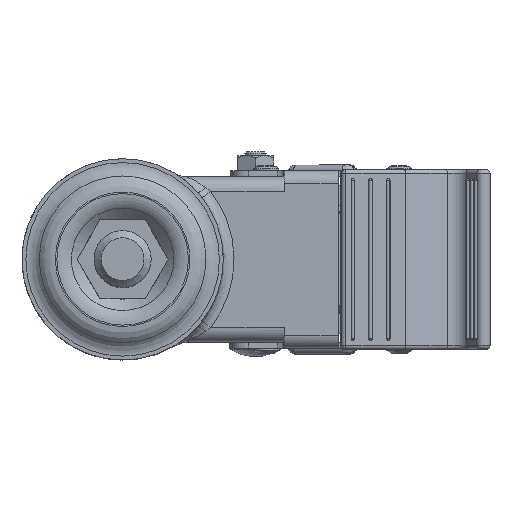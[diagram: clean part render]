
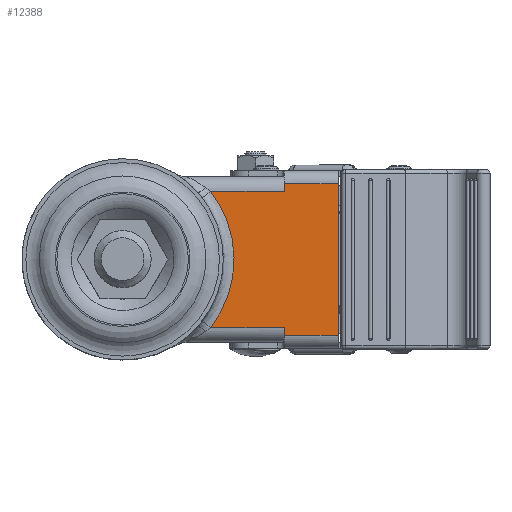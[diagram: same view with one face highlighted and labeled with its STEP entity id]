
A CAD part, top view. The second image highlights one B-rep face of the part: STEP entity #12388.
In plain terms, the highlighted planar face has unit normal (0, 0, 1).
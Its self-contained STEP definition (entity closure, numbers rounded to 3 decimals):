
#826=B_SPLINE_CURVE_WITH_KNOTS('',3,(#23418,#23419,#23420,#23421,#23422,
#23423,#23424,#23425,#23426,#23427,#23428,#23429,#23430,#23431,#23432,#23433,
#23434,#23435,#23436,#23437,#23438,#23439,#23440,#23441,#23442,#23443,#23444,
#23445,#23446,#23447),.UNSPECIFIED.,.F.,.F.,(4,2,2,2,2,2,2,2,2,2,2,2,2,
2,4),(69.111,72.184,75.328,78.47,
81.613,84.756,87.898,91.041,94.184,
97.327,100.469,103.612,106.754,109.897,
109.985),.UNSPECIFIED.);
#1653=FACE_OUTER_BOUND('',#2608,.T.);
#2608=EDGE_LOOP('',(#11381,#11382,#11383,#11384,#11385,#11386,#11387,#11388));
#3212=LINE('',#21735,#3992);
#3243=LINE('',#23453,#4023);
#3263=LINE('',#23600,#4043);
#3264=LINE('',#23603,#4044);
#3296=LINE('',#24583,#4076);
#3355=LINE('',#24865,#4135);
#3372=LINE('',#24950,#4152);
#3992=VECTOR('',#16862,20.509);
#4023=VECTOR('',#17065,20.509);
#4043=VECTOR('',#17183,2.1);
#4044=VECTOR('',#17186,2.1);
#4076=VECTOR('',#17418,15.);
#4135=VECTOR('',#17669,15.);
#4152=VECTOR('',#17708,42.2);
#5853=VERTEX_POINT('',#21732);
#5854=VERTEX_POINT('',#21734);
#5929=VERTEX_POINT('',#23278);
#5931=VERTEX_POINT('',#23452);
#5955=VERTEX_POINT('',#23598);
#5956=VERTEX_POINT('',#23602);
#6037=VERTEX_POINT('',#24563);
#6107=VERTEX_POINT('',#24863);
#7451=EDGE_CURVE('',#5853,#5854,#3212,.T.);
#7562=EDGE_CURVE('',#5854,#5929,#826,.T.);
#7564=EDGE_CURVE('',#5929,#5931,#3243,.T.);
#7607=EDGE_CURVE('',#5853,#5955,#3263,.T.);
#7608=EDGE_CURVE('',#5956,#5931,#3264,.T.);
#7718=EDGE_CURVE('',#6037,#5956,#3296,.T.);
#7833=EDGE_CURVE('',#6107,#5955,#3355,.T.);
#7859=EDGE_CURVE('',#6037,#6107,#3372,.T.);
#11381=ORIENTED_EDGE('',*,*,#7833,.F.);
#11382=ORIENTED_EDGE('',*,*,#7859,.F.);
#11383=ORIENTED_EDGE('',*,*,#7718,.T.);
#11384=ORIENTED_EDGE('',*,*,#7608,.T.);
#11385=ORIENTED_EDGE('',*,*,#7564,.F.);
#11386=ORIENTED_EDGE('',*,*,#7562,.F.);
#11387=ORIENTED_EDGE('',*,*,#7451,.F.);
#11388=ORIENTED_EDGE('',*,*,#7607,.T.);
#11647=PLANE('',#13930);
#12388=ADVANCED_FACE('',(#1653),#11647,.T.);
#13930=AXIS2_PLACEMENT_3D('',#25002,#17786,#17787);
#16862=DIRECTION('',(-1.,0.,0.));
#17065=DIRECTION('',(1.,0.,0.));
#17183=DIRECTION('',(0.,-1.,0.));
#17186=DIRECTION('',(0.,-1.,0.));
#17418=DIRECTION('',(-1.,0.,0.));
#17669=DIRECTION('',(-1.,0.,0.));
#17708=DIRECTION('',(0.,-1.,0.));
#17786=DIRECTION('center_axis',(0.,0.,1.));
#17787=DIRECTION('ref_axis',(1.,0.,0.));
#21732=CARTESIAN_POINT('',(36.5,-19.,40.6));
#21734=CARTESIAN_POINT('',(15.991,-19.,40.6));
#21735=CARTESIAN_POINT('',(36.5,-19.,40.6));
#23278=CARTESIAN_POINT('',(15.991,19.,40.6));
#23418=CARTESIAN_POINT('Ctrl Pts',(15.991,-19.,40.6));
#23419=CARTESIAN_POINT('Ctrl Pts',(16.624,-18.185,40.6));
#23420=CARTESIAN_POINT('Ctrl Pts',(17.209,-17.347,40.6));
#23421=CARTESIAN_POINT('Ctrl Pts',(18.311,-15.592,40.6));
#23422=CARTESIAN_POINT('Ctrl Pts',(18.824,-14.673,40.6));
#23423=CARTESIAN_POINT('Ctrl Pts',(19.753,-12.793,40.6));
#23424=CARTESIAN_POINT('Ctrl Pts',(20.17,-11.831,40.6));
#23425=CARTESIAN_POINT('Ctrl Pts',(20.903,-9.868,40.6));
#23426=CARTESIAN_POINT('Ctrl Pts',(21.22,-8.867,40.6));
#23427=CARTESIAN_POINT('Ctrl Pts',(21.752,-6.839,40.6));
#23428=CARTESIAN_POINT('Ctrl Pts',(21.966,-5.811,40.6));
#23429=CARTESIAN_POINT('Ctrl Pts',(22.288,-3.74,40.6));
#23430=CARTESIAN_POINT('Ctrl Pts',(22.397,-2.697,40.6));
#23431=CARTESIAN_POINT('Ctrl Pts',(22.509,-0.603,
40.6));
#23432=CARTESIAN_POINT('Ctrl Pts',(22.512,0.446,40.6));
#23433=CARTESIAN_POINT('Ctrl Pts',(22.411,2.54,40.6));
#23434=CARTESIAN_POINT('Ctrl Pts',(22.307,3.585,40.6));
#23435=CARTESIAN_POINT('Ctrl Pts',(21.995,5.657,40.6));
#23436=CARTESIAN_POINT('Ctrl Pts',(21.786,6.686,40.6));
#23437=CARTESIAN_POINT('Ctrl Pts',(21.265,8.717,40.6));
#23438=CARTESIAN_POINT('Ctrl Pts',(20.953,9.719,40.6));
#23439=CARTESIAN_POINT('Ctrl Pts',(20.229,11.686,40.6));
#23440=CARTESIAN_POINT('Ctrl Pts',(19.818,12.65,40.6));
#23441=CARTESIAN_POINT('Ctrl Pts',(18.898,14.535,40.6));
#23442=CARTESIAN_POINT('Ctrl Pts',(18.39,15.456,40.6));
#23443=CARTESIAN_POINT('Ctrl Pts',(17.284,17.236,40.6));
#23444=CARTESIAN_POINT('Ctrl Pts',(16.689,18.095,40.6));
#23445=CARTESIAN_POINT('Ctrl Pts',(16.028,18.953,40.6));
#23446=CARTESIAN_POINT('Ctrl Pts',(16.009,18.977,40.6));
#23447=CARTESIAN_POINT('Ctrl Pts',(15.991,19.,40.6));
#23452=CARTESIAN_POINT('',(36.5,19.,40.6));
#23453=CARTESIAN_POINT('',(15.991,19.,40.6));
#23598=CARTESIAN_POINT('',(36.5,-21.1,40.6));
#23600=CARTESIAN_POINT('',(36.5,-19.,40.6));
#23602=CARTESIAN_POINT('',(36.5,21.1,40.6));
#23603=CARTESIAN_POINT('',(36.5,21.1,40.6));
#24563=CARTESIAN_POINT('',(51.5,21.1,40.6));
#24583=CARTESIAN_POINT('',(51.5,21.1,40.6));
#24863=CARTESIAN_POINT('',(51.5,-21.1,40.6));
#24865=CARTESIAN_POINT('',(51.5,-21.1,40.6));
#24950=CARTESIAN_POINT('',(51.5,21.1,40.6));
#25002=CARTESIAN_POINT('Origin',(36.5,0.,40.6));
